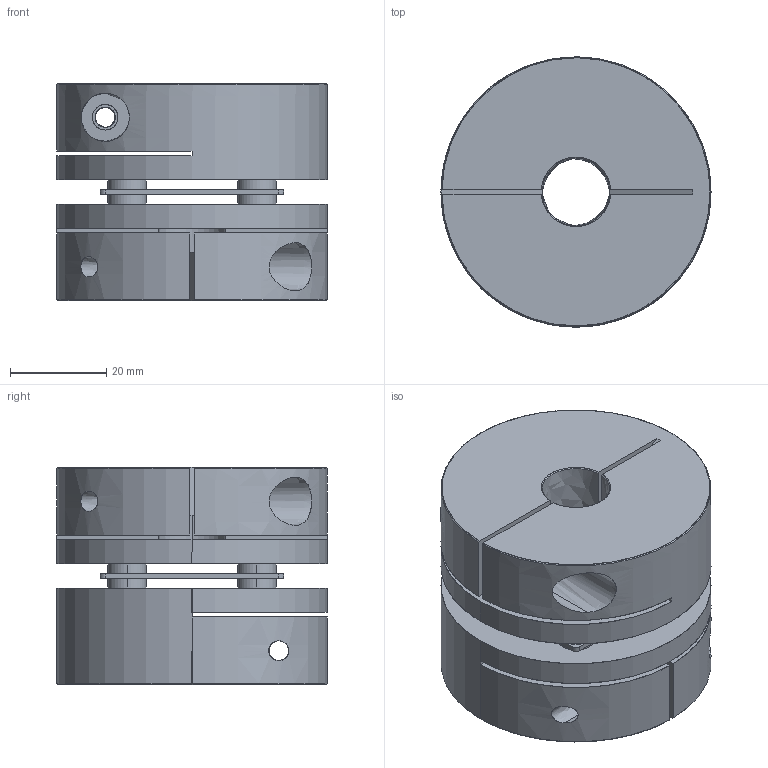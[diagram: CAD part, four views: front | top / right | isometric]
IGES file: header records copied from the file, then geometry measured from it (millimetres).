
Start section: SolidWorks IGES file using analytic representation for surfaces
Bounding box: 56 x 56 x 45 mm (x, y, z)
Surface area: 27696.7 mm2 (no closed solid volume)
Topology: 0 solids, 0 shells, 87 faces, 2069 edges, 2069 vertices
Faces by surface type: revolution 55, bspline 32
